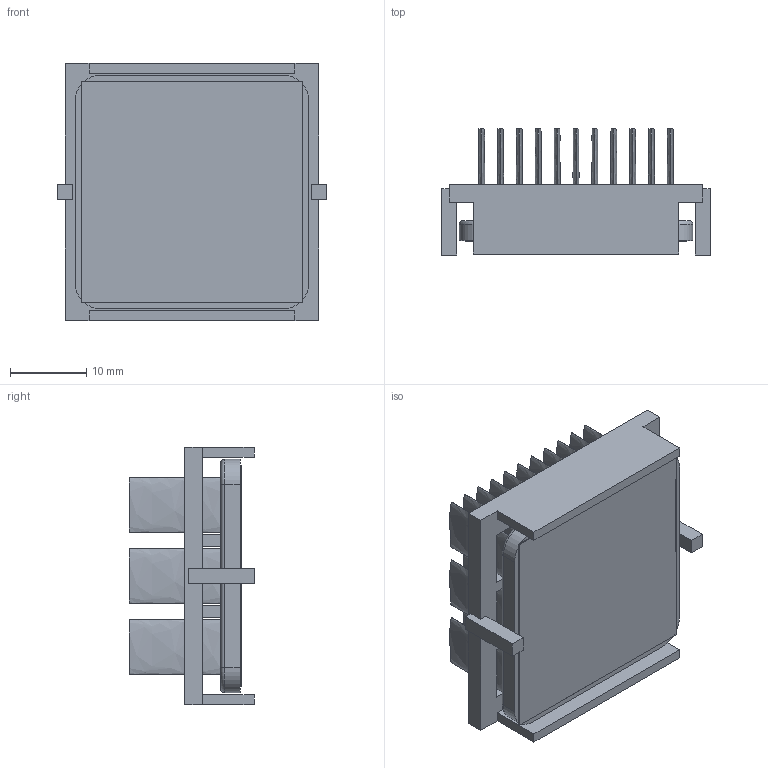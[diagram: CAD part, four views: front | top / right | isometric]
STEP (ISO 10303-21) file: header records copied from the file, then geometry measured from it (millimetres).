
FILE_DESCRIPTION (( 'STEP AP214' ), '1' );
FILE_NAME ('INM31001-15W-2.6BU.STEP', '2023-02-18T00:59:04', ( '' ), ( '' ), 'SwSTEP 2.0', 'SolidWorks 2020', '' );
FILE_SCHEMA (( 'AUTOMOTIVE_DESIGN' ));
Length unit declared in the file: inch
Products named in the file (1): INM31001-15W-2.6BU
Bounding box: 35.2 x 16.5 x 33.7 mm (x, y, z)
Volume: 5939.9 mm3; surface area: 12202.8 mm2
Topology: 3 solids, 3 shells, 177 faces, 406 edges, 268 vertices
Faces by surface type: plane 99, bspline 66, cylinder 8, torus 4
Entity records: 7461 total; most frequent: CARTESIAN_POINT 1710, ORIENTED_EDGE 812, DIRECTION 518, EDGE_CURVE 406, VERTEX_POINT 268, VECTOR 254, LINE 254, EDGE_LOOP 212
